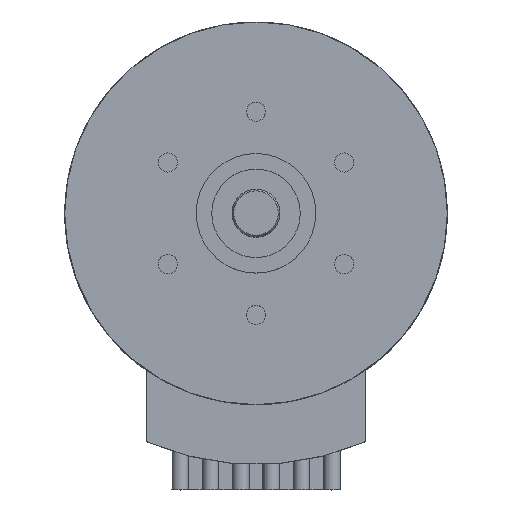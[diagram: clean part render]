
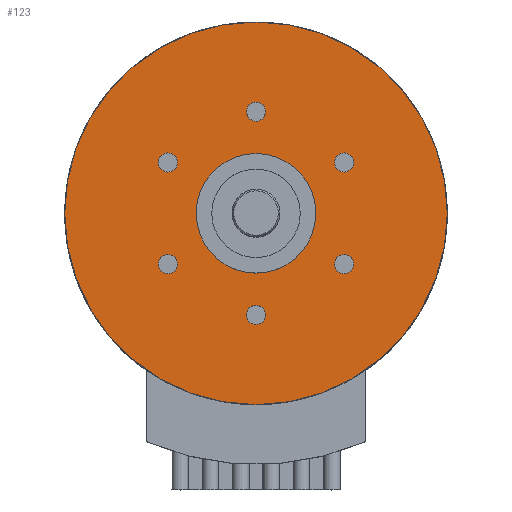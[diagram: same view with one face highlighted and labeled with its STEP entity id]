
A CAD part, top view. The second image highlights one B-rep face of the part: STEP entity #123.
In plain terms, the highlighted planar face has unit normal (0, 0, 1).
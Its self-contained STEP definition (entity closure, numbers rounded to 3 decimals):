
#123=ADVANCED_FACE('',(#272,#273,#274,#275,#276,#277,#278,#279),#172,.T.);
#172=PLANE('',#1069);
#234=CIRCLE('',#1060,5.);
#235=CIRCLE('',#1062,0.8);
#236=CIRCLE('',#1063,0.8);
#237=CIRCLE('',#1064,0.8);
#238=CIRCLE('',#1065,0.8);
#239=CIRCLE('',#1066,0.8);
#240=CIRCLE('',#1067,0.8);
#241=CIRCLE('',#1068,16.);
#272=FACE_BOUND('',#328,.T.);
#273=FACE_BOUND('',#329,.T.);
#274=FACE_BOUND('',#330,.T.);
#275=FACE_BOUND('',#331,.T.);
#276=FACE_BOUND('',#332,.T.);
#277=FACE_BOUND('',#333,.T.);
#278=FACE_BOUND('',#334,.T.);
#279=FACE_BOUND('',#335,.T.);
#328=EDGE_LOOP('',(#484));
#329=EDGE_LOOP('',(#485));
#330=EDGE_LOOP('',(#486));
#331=EDGE_LOOP('',(#487));
#332=EDGE_LOOP('',(#488));
#333=EDGE_LOOP('',(#489));
#334=EDGE_LOOP('',(#490));
#335=EDGE_LOOP('',(#491));
#484=ORIENTED_EDGE('',*,*,#816,.T.);
#485=ORIENTED_EDGE('',*,*,#817,.T.);
#486=ORIENTED_EDGE('',*,*,#818,.T.);
#487=ORIENTED_EDGE('',*,*,#819,.T.);
#488=ORIENTED_EDGE('',*,*,#820,.T.);
#489=ORIENTED_EDGE('',*,*,#821,.T.);
#490=ORIENTED_EDGE('',*,*,#815,.F.);
#491=ORIENTED_EDGE('',*,*,#822,.F.);
#709=VERTEX_POINT('',#1600);
#710=VERTEX_POINT('',#1603);
#711=VERTEX_POINT('',#1605);
#712=VERTEX_POINT('',#1607);
#713=VERTEX_POINT('',#1609);
#714=VERTEX_POINT('',#1611);
#715=VERTEX_POINT('',#1613);
#716=VERTEX_POINT('',#1615);
#815=EDGE_CURVE('',#709,#709,#234,.T.);
#816=EDGE_CURVE('',#710,#710,#235,.T.);
#817=EDGE_CURVE('',#711,#711,#236,.T.);
#818=EDGE_CURVE('',#712,#712,#237,.T.);
#819=EDGE_CURVE('',#713,#713,#238,.T.);
#820=EDGE_CURVE('',#714,#714,#239,.T.);
#821=EDGE_CURVE('',#715,#715,#240,.T.);
#822=EDGE_CURVE('',#716,#716,#241,.T.);
#1060=AXIS2_PLACEMENT_3D('',#1599,#1276,#1277);
#1062=AXIS2_PLACEMENT_3D('',#1602,#1280,#1281);
#1063=AXIS2_PLACEMENT_3D('',#1604,#1282,#1283);
#1064=AXIS2_PLACEMENT_3D('',#1606,#1284,#1285);
#1065=AXIS2_PLACEMENT_3D('',#1608,#1286,#1287);
#1066=AXIS2_PLACEMENT_3D('',#1610,#1288,#1289);
#1067=AXIS2_PLACEMENT_3D('',#1612,#1290,#1291);
#1068=AXIS2_PLACEMENT_3D('',#1614,#1292,#1293);
#1069=AXIS2_PLACEMENT_3D('',#1616,#1294,#1295);
#1276=DIRECTION('',(0.,0.,1.));
#1277=DIRECTION('',(1.,0.,0.));
#1280=DIRECTION('',(0.,0.,-1.));
#1281=DIRECTION('',(-0.5,0.866,0.));
#1282=DIRECTION('',(0.,0.,-1.));
#1283=DIRECTION('',(0.5,0.866,0.));
#1284=DIRECTION('',(0.,0.,-1.));
#1285=DIRECTION('',(1.,0.,0.));
#1286=DIRECTION('',(0.,0.,-1.));
#1287=DIRECTION('',(0.5,-0.866,0.));
#1288=DIRECTION('',(0.,0.,-1.));
#1289=DIRECTION('',(-0.5,-0.866,0.));
#1290=DIRECTION('',(0.,0.,-1.));
#1291=DIRECTION('',(-1.,0.,0.));
#1292=DIRECTION('',(0.,0.,-1.));
#1293=DIRECTION('',(1.,0.,0.));
#1294=DIRECTION('',(0.,0.,1.));
#1295=DIRECTION('',(1.,0.,0.));
#1599=CARTESIAN_POINT('',(0.,0.,0.));
#1600=CARTESIAN_POINT('',(5.,0.,0.));
#1602=CARTESIAN_POINT('',(7.361,4.25,0.));
#1603=CARTESIAN_POINT('',(6.961,4.943,0.));
#1604=CARTESIAN_POINT('',(7.361,-4.25,0.));
#1605=CARTESIAN_POINT('',(7.761,-3.557,0.));
#1606=CARTESIAN_POINT('',(0.,-8.5,0.));
#1607=CARTESIAN_POINT('',(0.8,-8.5,0.));
#1608=CARTESIAN_POINT('',(-7.361,-4.25,0.));
#1609=CARTESIAN_POINT('',(-6.961,-4.943,0.));
#1610=CARTESIAN_POINT('',(-7.361,4.25,0.));
#1611=CARTESIAN_POINT('',(-7.761,3.557,0.));
#1612=CARTESIAN_POINT('',(0.,8.5,0.));
#1613=CARTESIAN_POINT('',(-0.8,8.5,0.));
#1614=CARTESIAN_POINT('',(0.,0.,0.));
#1615=CARTESIAN_POINT('',(16.,0.,0.));
#1616=CARTESIAN_POINT('',(0.,0.,0.));
